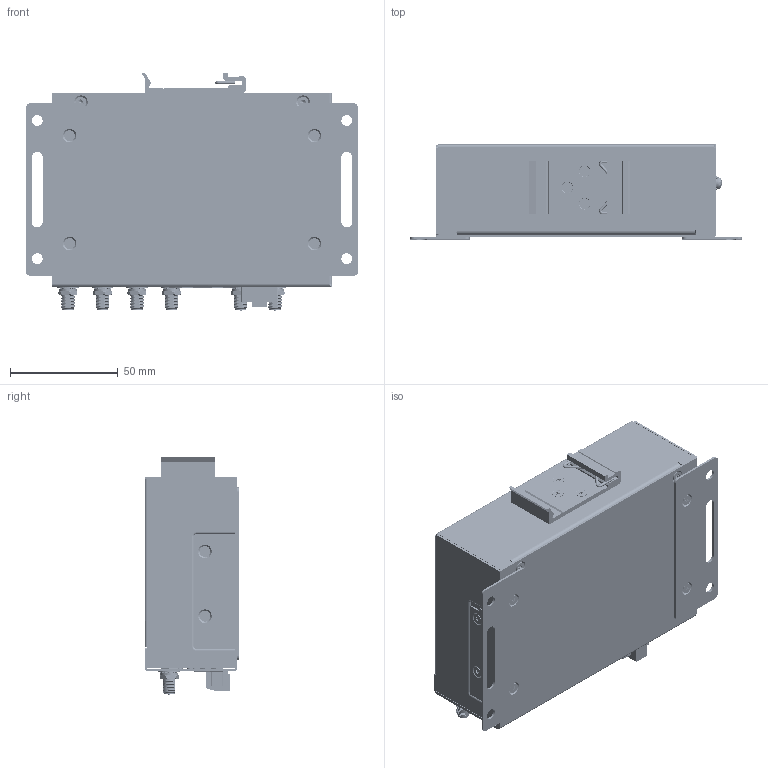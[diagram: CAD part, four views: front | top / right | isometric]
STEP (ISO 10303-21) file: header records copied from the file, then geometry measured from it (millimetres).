
FILE_DESCRIPTION (( 'STEP AP214' ), '1' );
FILE_NAME ('ICR-4161W.STEP', '2024-11-05T08:41:51', ( '' ), ( '' ), 'SwSTEP 2.0', 'SolidWorks 2024', '' );
FILE_SCHEMA (( 'AUTOMOTIVE_DESIGN' ));
Length unit declared in the file: millimetre
Products named in the file (50): ChassisSimCover; Dip_Switch_2_positon; POST_D4,5xL5; Pluggable_Term_Blk_2P; SCR_ZC_M3_L10_PH_PW; SCR_BK_M3_L5_PH_FL_TW; POST_D6xL4; SCR_BK_M3_L5_PH_FL_TW_GLUE; Micro_SD_card_holder_part_2; USB_3_0_type_A; Case_for_ICR-4(1,2)xx; Label_41W2C4; ChassisTop; SCR_BK_M3_L4_TX8_FL_SCR; ThermalTape; PCI_Female_Connector_67P; DIN_25_AL; ANT_PG_L150_SMA_I; Battery_SMT_holder_Keystone-PN3000; Micro_SD_card_holder; Chassis_package-ICR-4(1,2)xx; WAS_ZC_2_SR; SIM_holder; Radial_THT_Capacitor; CDS_M_H5_W7,3_CHM3; CON_WR2; ICR-4161W; Tact_Switch_right_angle; PCI_Female_Connector_52P; chassisWallMount; AlluminiumCooler; Lightpipe_4P; Label_SIM_SD_IO_configuration_SIM; SCR_ZC_M3_L6_PH_PW; Thermal_pad_46x30; Bottom_Base_for_ICR-4(1,2)xx; Micro_SD_card_holder_part_1; B-ICR41(2)xx-4_B-ICR41xxLS-4; BAT_CR1225; SCR_ZC_M3_L6_PH_PW_2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
Assembly tree (72 placements, depth 5):
  ICR-4161W
    Chassis_package-ICR-4(1,2)xx
      Case_for_ICR-4(1,2)xx
        Bottom_Base_for_ICR-4(1,2)xx
          ChassisBottom
          CDS_M_H5_W7,3_CHM3  x4
        ChassisTop
      ChassisSimCover
      ThermalTape
      chassisWallMount  x2
      AlluminiumCooler
    B-ICR41(2)xx-4_B-ICR41xxLS-4
      PCB_ICR-4(1,2)xx
      PCI_Female_Connector_52P
      POST_D4,5xL5
      Battery_SMT_holder_Keystone-PN3000
      Lightpipe_4P  x2
      RJ45_2x_Connector
      USB_3_0_type_A
      POST_D6xL4
      PCI_Female_Connector_67P
      SIM_holder  x2
      Tact_Switch_right_angle
      Radial_THT_Capacitor
      Pluggable_Term_Blk_2P
      Micro_SD_card_holder
        Micro_SD_card_holder_part_1
        Micro_SD_card_holder_part_2
      Dip_Switch_2_positon
      Pin_header_6x2P
    CON_WR2
    BAT_CR1225
    DIN_25_AL
    Label_SIM_SD_IO_configuration_SIM
    Label_41W2C4
    Thermal_pad_46x30
    CoolingPadCellular  x2
    WPEQ-268AXI
    FM101-EAU_FM101-EAU
    RM520N-GL
    ANT_PG_L200_R-SMA_UFL  x2
    ANT_PG_L150_SMA_I  x4
    SCR_BK_M3_L4_TX8_FL_SCR  x4
    SCR_BK_M3_L5_PH_FL_TW_GLUE  x7
    SCR_BK_M3_L5_PH_FL_TW  x2
    SCR_ZC_M3_L6_PH_PW_2
    SCR_ZC_M3_L10_PH_PW
    SCR_ZC_M3_L6_PH_PW  x3
    SCR_ZC_M2_L5_PH_P_M2x5
    WAS_ZC_2_SR
Bounding box: 153.9 x 44 x 110.72 mm (x, y, z)
Volume: 102471.8 mm3; surface area: 203902.4 mm2
Topology: 92 solids, 159 shells, 15303 faces, 42369 edges, 27849 vertices
Faces by surface type: plane 8669, bspline 3159, cylinder 2885, cone 427, torus 127, sphere 36
Entity records: 526051 total; most frequent: CARTESIAN_POINT 155996, ORIENTED_EDGE 71565, DIRECTION 52959, EDGE_CURVE 36056, VERTEX_POINT 23672, VECTOR 22697, LINE 22697, AXIS2_PLACEMENT_3D 15131
